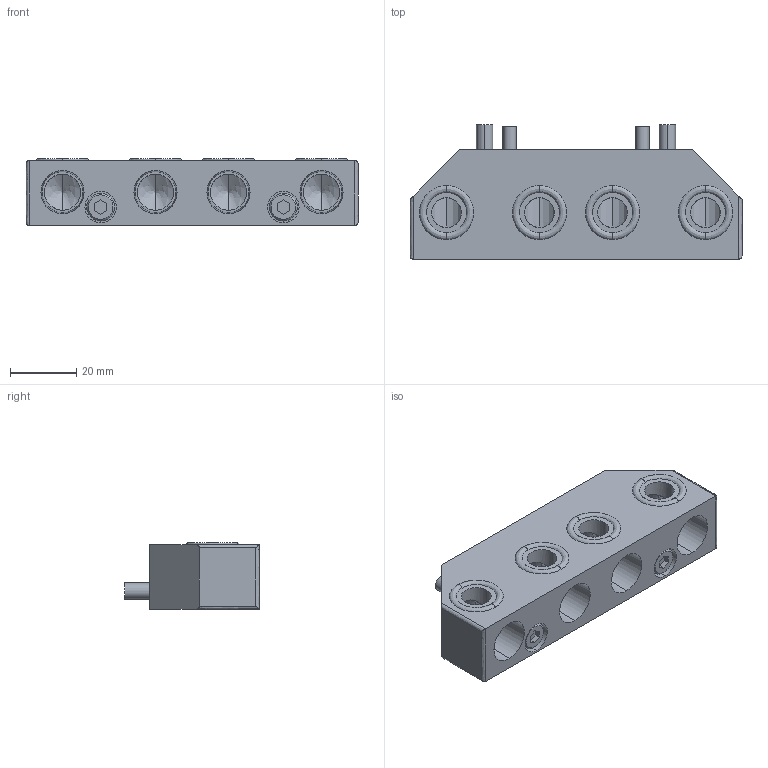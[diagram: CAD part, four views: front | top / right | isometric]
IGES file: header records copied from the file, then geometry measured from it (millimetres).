
Start section: 3D InterOp IGES (v. 2022 1.0.0), Spatial Corp. Copyright (c) 1999-2020.
Global section: file name: KHB-45~300HS-EP84_ver1.igs; native system: Spatial Corp.; preprocessor: 3D InterOp GENERIC/IGES 3.0; author: Noname; organization: Noname; date: 20260427.170016; units: millimetre
Bounding box: 100 x 40.5 x 20.1 mm (x, y, z)
Surface area: 17004.5 mm2 (no closed solid volume)
Topology: 0 solids, 0 shells, 125 faces, 588 edges, 580 vertices
Faces by surface type: revolution 79, extrusion 46
